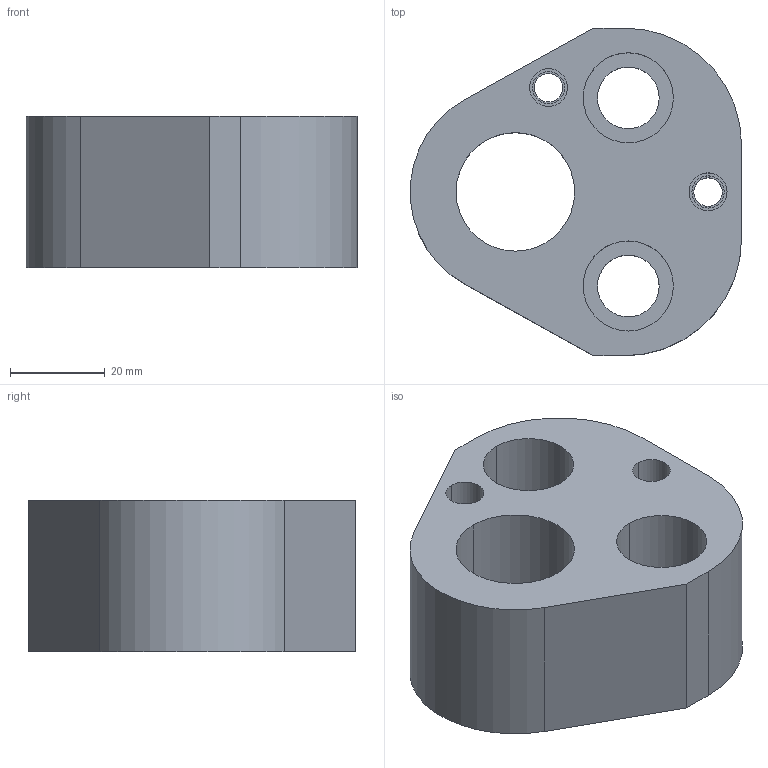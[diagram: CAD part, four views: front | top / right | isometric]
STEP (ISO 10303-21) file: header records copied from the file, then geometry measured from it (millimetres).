
FILE_DESCRIPTION(/* description */ (''),/* implementation_level */ '2;1');
FILE_NAME(/* name */ '3d_crn-a25_03610_r00.stp',/* time_stamp */ '2011-01-10T14:16:25+09:00',/* author */ ('MISUMI'),/* organization */ (''),/* preprocessor_version */ 'ST-DEVELOPER v11',/* originating_system */ 'UGS - NX 5.0',/* authorisation */ '');
FILE_SCHEMA (('CONFIG_CONTROL_DESIGN'));
Length unit declared in the file: millimetre
Products named in the file (1): 3d_crn-a25_03610_r00
Bounding box: 69.83 x 69.1 x 32 mm (x, y, z)
Volume: 86033.2 mm3; surface area: 19912.6 mm2
Topology: 1 solids, 1 shells, 41 faces, 96 edges, 64 vertices
Faces by surface type: cylinder 27, plane 14
Entity records: 1310 total; most frequent: DIRECTION 234, CARTESIAN_POINT 202, ORIENTED_EDGE 192, EDGE_CURVE 96, AXIS2_PLACEMENT_3D 96, VERTEX_POINT 64, EDGE_LOOP 58, CIRCLE 54
